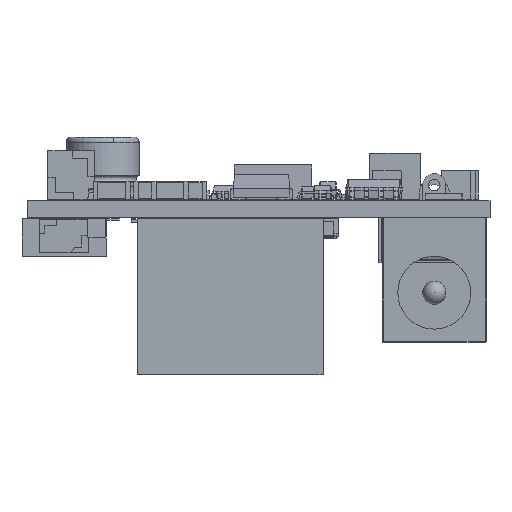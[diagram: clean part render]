
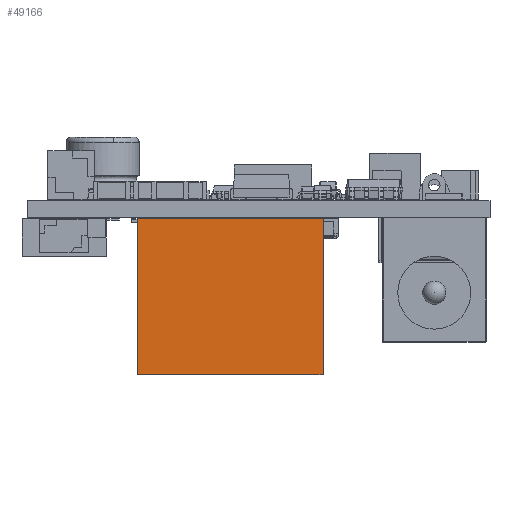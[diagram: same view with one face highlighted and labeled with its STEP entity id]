
A CAD part, front view. The second image highlights one B-rep face of the part: STEP entity #49166.
In plain terms, the highlighted planar face has unit normal (0, -1, 0).
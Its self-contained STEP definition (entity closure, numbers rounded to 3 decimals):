
#49091 = VERTEX_POINT('',#49092);
#49092 = CARTESIAN_POINT('',(12.46,-17.26,13.5));
#49109 = VERTEX_POINT('',#49110);
#49110 = CARTESIAN_POINT('',(-3.58,-17.26,13.5));
#49116 = EDGE_CURVE('',#49109,#49091,#49117,.T.);
#49117 = LINE('',#49118,#49119);
#49118 = CARTESIAN_POINT('',(4.44,-17.26,13.5));
#49119 = VECTOR('',#49120,1.);
#49120 = DIRECTION('',(1.,0.,0.));
#49133 = VERTEX_POINT('',#49134);
#49134 = CARTESIAN_POINT('',(12.46,-17.26,0.));
#49140 = EDGE_CURVE('',#49133,#49141,#49143,.T.);
#49141 = VERTEX_POINT('',#49142);
#49142 = CARTESIAN_POINT('',(-3.58,-17.26,0.));
#49143 = LINE('',#49144,#49145);
#49144 = CARTESIAN_POINT('',(4.44,-17.26,0.));
#49145 = VECTOR('',#49146,1.);
#49146 = DIRECTION('',(-1.,0.,0.));
#49166 = ADVANCED_FACE('',(#49167),#49183,.F.);
#49167 = FACE_BOUND('',#49168,.T.);
#49168 = EDGE_LOOP('',(#49169,#49175,#49176,#49182));
#49169 = ORIENTED_EDGE('',*,*,#49170,.T.);
#49170 = EDGE_CURVE('',#49109,#49141,#49171,.T.);
#49171 = LINE('',#49172,#49173);
#49172 = CARTESIAN_POINT('',(-3.58,-17.26,6.75));
#49173 = VECTOR('',#49174,1.);
#49174 = DIRECTION('',(0.,0.,-1.));
#49175 = ORIENTED_EDGE('',*,*,#49140,.F.);
#49176 = ORIENTED_EDGE('',*,*,#49177,.F.);
#49177 = EDGE_CURVE('',#49091,#49133,#49178,.T.);
#49178 = LINE('',#49179,#49180);
#49179 = CARTESIAN_POINT('',(12.46,-17.26,6.75));
#49180 = VECTOR('',#49181,1.);
#49181 = DIRECTION('',(0.,0.,-1.));
#49182 = ORIENTED_EDGE('',*,*,#49116,.F.);
#49183 = PLANE('',#49184);
#49184 = AXIS2_PLACEMENT_3D('',#49185,#49186,#49187);
#49185 = CARTESIAN_POINT('',(4.44,-17.26,6.75));
#49186 = DIRECTION('',(0.,1.,0.));
#49187 = DIRECTION('',(0.,-0.,1.));
